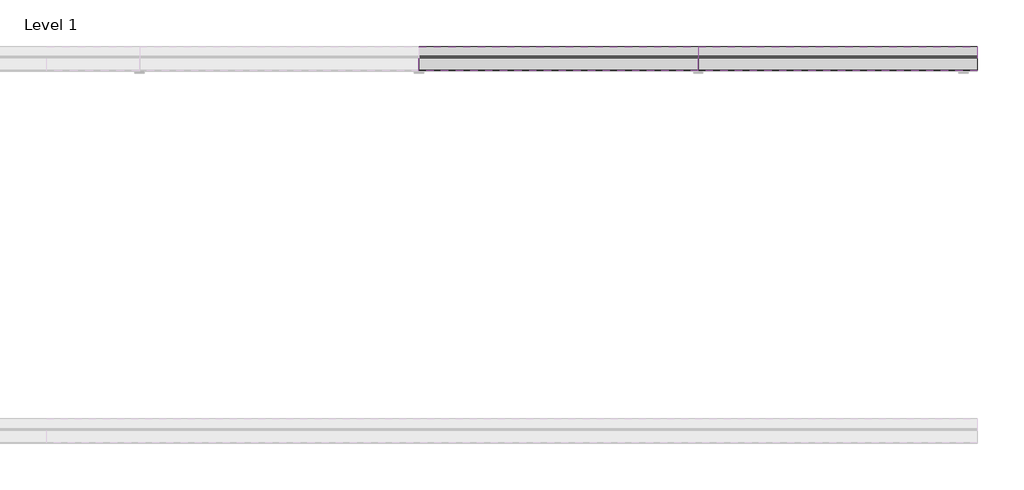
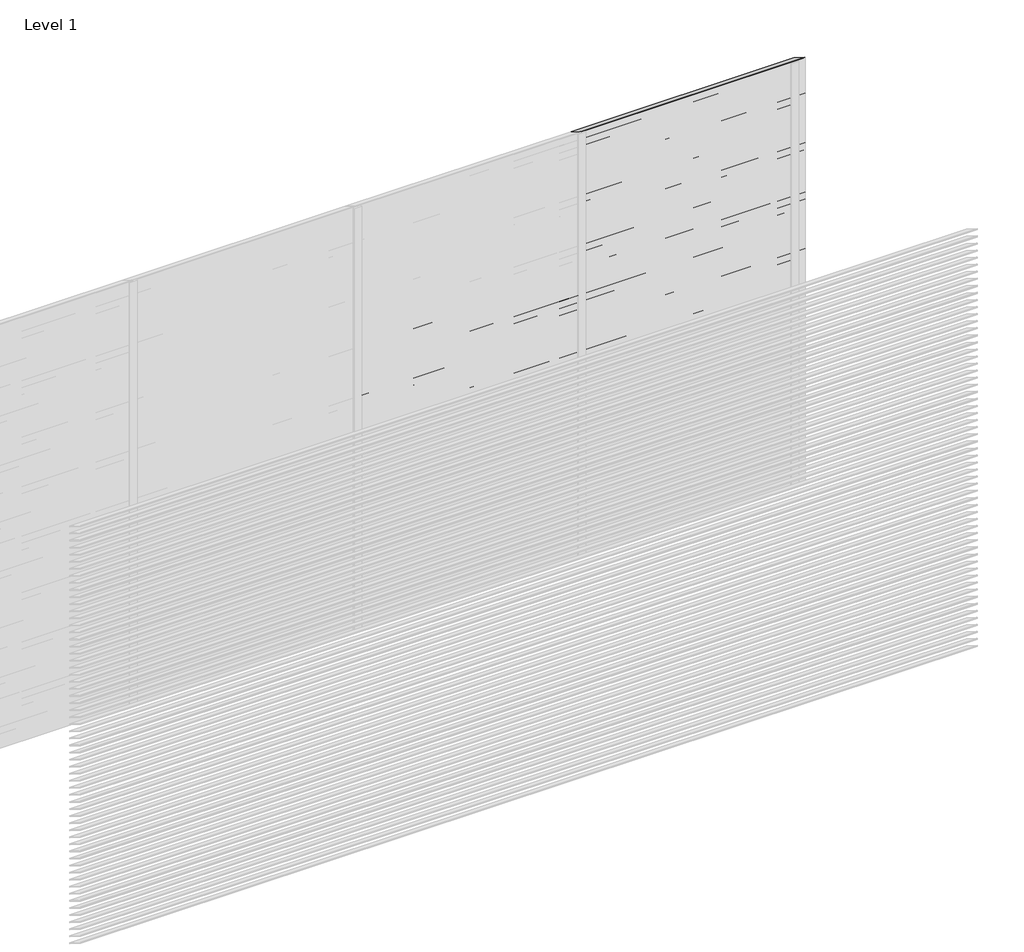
# One storey, part 13 of 13: 101 proxies.
"""IFC4 building model written with IfcOpenShell, lengths in millimetres."""

from ifc_helpers import new_model, si_unit, frame, origin, place, context, project, spatial, polyline, outline, extrude, element, save

model = new_model("IFC4")

# Units and contexts
model_context = context("Model", 3, world=origin())
ifc_project = project(units=[si_unit("LENGTHUNIT", "METRE", prefix="MILLI")], contexts=[model_context])

# Site, building, storey
site = spatial("IfcSite", under=ifc_project)
building = spatial("IfcBuilding", under=site)
storey = spatial("IfcBuildingStorey", under=building, Name="Level 1", Elevation=0.0)

# Proxies
placement = place(None, origin())
element("IfcBuildingElementProxy", 1, Name="Wall Sweeps", at=placement, inside=storey, context=model_context, shape_type="SweptSolid", body=[
    extrude(outline(polyline([(5.0, 2050.0), (5.0, 2048.0), (132.0, 1969.0), (132.0, 1963.0), (3.0, 2043.2440945), (3.0, 2050.0), (5.0, 2050.0)])), frame((3000.0, 0.0, 0.0), z_axis=(1.0, 0.0, 0.0), x_axis=(0.0, 1.0, 0.0)), (0.0, 0.0, 1.0), 1500.0),
])
element("IfcBuildingElementProxy", 2, Name="Wall Sweeps", at=placement, inside=storey, context=model_context, shape_type="SweptSolid", body=[
    extrude(outline(polyline([(5.0, 2000.0), (5.0, 1998.0), (132.0, 1919.0), (132.0, 1913.0), (3.0, 1993.2440945), (3.0, 2000.0), (5.0, 2000.0)])), frame((3000.0, 0.0, 0.0), z_axis=(1.0, 0.0, 0.0), x_axis=(0.0, 1.0, 0.0)), (0.0, 0.0, 1.0), 1500.0),
])
element("IfcBuildingElementProxy", 3, Name="Wall Sweeps", at=placement, inside=storey, context=model_context, shape_type="SweptSolid", body=[
    extrude(outline(polyline([(5.0, 1950.0), (5.0, 1948.0), (132.0, 1869.0), (132.0, 1863.0), (3.0, 1943.2440945), (3.0, 1950.0), (5.0, 1950.0)])), frame((3000.0, 0.0, 0.0), z_axis=(1.0, 0.0, 0.0), x_axis=(0.0, 1.0, 0.0)), (0.0, 0.0, 1.0), 1500.0),
])
element("IfcBuildingElementProxy", 4, Name="Wall Sweeps", at=placement, inside=storey, context=model_context, shape_type="SweptSolid", body=[
    extrude(outline(polyline([(5.0, 1900.0), (5.0, 1898.0), (132.0, 1819.0), (132.0, 1813.0), (3.0, 1893.2440945), (3.0, 1900.0), (5.0, 1900.0)])), frame((3000.0, 0.0, 0.0), z_axis=(1.0, 0.0, 0.0), x_axis=(0.0, 1.0, 0.0)), (0.0, 0.0, 1.0), 1500.0),
])
element("IfcBuildingElementProxy", 5, Name="Wall Sweeps", at=placement, inside=storey, context=model_context, shape_type="SweptSolid", body=[
    extrude(outline(polyline([(5.0, 1850.0), (5.0, 1848.0), (132.0, 1769.0), (132.0, 1763.0), (3.0, 1843.2440945), (3.0, 1850.0), (5.0, 1850.0)])), frame((3000.0, 0.0, 0.0), z_axis=(1.0, 0.0, 0.0), x_axis=(0.0, 1.0, 0.0)), (0.0, 0.0, 1.0), 1500.0),
])
element("IfcBuildingElementProxy", 6, Name="Wall Sweeps", at=placement, inside=storey, context=model_context, shape_type="SweptSolid", body=[
    extrude(outline(polyline([(5.0, 1800.0), (5.0, 1798.0), (132.0, 1719.0), (132.0, 1713.0), (3.0, 1793.2440945), (3.0, 1800.0), (5.0, 1800.0)])), frame((3000.0, 0.0, 0.0), z_axis=(1.0, 0.0, 0.0), x_axis=(0.0, 1.0, 0.0)), (0.0, 0.0, 1.0), 1500.0),
])
element("IfcBuildingElementProxy", 7, Name="Wall Sweeps", at=placement, inside=storey, context=model_context, shape_type="SweptSolid", body=[
    extrude(outline(polyline([(5.0, 1750.0), (5.0, 1748.0), (132.0, 1669.0), (132.0, 1663.0), (3.0, 1743.2440945), (3.0, 1750.0), (5.0, 1750.0)])), frame((3000.0, 0.0, 0.0), z_axis=(1.0, 0.0, 0.0), x_axis=(0.0, 1.0, 0.0)), (0.0, 0.0, 1.0), 1500.0),
])
element("IfcBuildingElementProxy", 8, Name="Wall Sweeps", at=placement, inside=storey, context=model_context, shape_type="SweptSolid", body=[
    extrude(outline(polyline([(5.0, 1700.0), (5.0, 1698.0), (132.0, 1619.0), (132.0, 1613.0), (3.0, 1693.2440945), (3.0, 1700.0), (5.0, 1700.0)])), frame((3000.0, 0.0, 0.0), z_axis=(1.0, 0.0, 0.0), x_axis=(0.0, 1.0, 0.0)), (0.0, 0.0, 1.0), 1500.0),
])
element("IfcBuildingElementProxy", 9, Name="Wall Sweeps", at=placement, inside=storey, context=model_context, shape_type="SweptSolid", body=[
    extrude(outline(polyline([(5.0, 1650.0), (5.0, 1648.0), (132.0, 1569.0), (132.0, 1563.0), (3.0, 1643.2440945), (3.0, 1650.0), (5.0, 1650.0)])), frame((3000.0, 0.0, 0.0), z_axis=(1.0, 0.0, 0.0), x_axis=(0.0, 1.0, 0.0)), (0.0, 0.0, 1.0), 1500.0),
])
element("IfcBuildingElementProxy", 10, Name="Wall Sweeps", at=placement, inside=storey, context=model_context, shape_type="SweptSolid", body=[
    extrude(outline(polyline([(5.0, 1600.0), (5.0, 1598.0), (132.0, 1519.0), (132.0, 1513.0), (3.0, 1593.2440945), (3.0, 1600.0), (5.0, 1600.0)])), frame((3000.0, 0.0, 0.0), z_axis=(1.0, 0.0, 0.0), x_axis=(0.0, 1.0, 0.0)), (0.0, 0.0, 1.0), 1500.0),
])
element("IfcBuildingElementProxy", 11, Name="Wall Sweeps", at=placement, inside=storey, context=model_context, shape_type="SweptSolid", body=[
    extrude(outline(polyline([(5.0, 1550.0), (5.0, 1548.0), (132.0, 1469.0), (132.0, 1463.0), (3.0, 1543.2440945), (3.0, 1550.0), (5.0, 1550.0)])), frame((3000.0, 0.0, 0.0), z_axis=(1.0, 0.0, 0.0), x_axis=(0.0, 1.0, 0.0)), (0.0, 0.0, 1.0), 1500.0),
])
element("IfcBuildingElementProxy", 12, Name="Wall Sweeps", at=placement, inside=storey, context=model_context, shape_type="SweptSolid", body=[
    extrude(outline(polyline([(5.0, 1500.0), (5.0, 1498.0), (132.0, 1419.0), (132.0, 1413.0), (3.0, 1493.2440945), (3.0, 1500.0), (5.0, 1500.0)])), frame((3000.0, 0.0, 0.0), z_axis=(1.0, 0.0, 0.0), x_axis=(0.0, 1.0, 0.0)), (0.0, 0.0, 1.0), 1500.0),
])
element("IfcBuildingElementProxy", 13, Name="Wall Sweeps", at=placement, inside=storey, context=model_context, shape_type="SweptSolid", body=[
    extrude(outline(polyline([(5.0, 1450.0), (5.0, 1448.0), (132.0, 1369.0), (132.0, 1363.0), (3.0, 1443.2440945), (3.0, 1450.0), (5.0, 1450.0)])), frame((3000.0, 0.0, 0.0), z_axis=(1.0, 0.0, 0.0), x_axis=(0.0, 1.0, 0.0)), (0.0, 0.0, 1.0), 1500.0),
])
element("IfcBuildingElementProxy", 14, Name="Wall Sweeps", at=placement, inside=storey, context=model_context, shape_type="SweptSolid", body=[
    extrude(outline(polyline([(5.0, 1400.0), (5.0, 1398.0), (132.0, 1319.0), (132.0, 1313.0), (3.0, 1393.2440945), (3.0, 1400.0), (5.0, 1400.0)])), frame((3000.0, 0.0, 0.0), z_axis=(1.0, 0.0, 0.0), x_axis=(0.0, 1.0, 0.0)), (0.0, 0.0, 1.0), 1500.0),
])
element("IfcBuildingElementProxy", 15, Name="Wall Sweeps", at=placement, inside=storey, context=model_context, shape_type="SweptSolid", body=[
    extrude(outline(polyline([(5.0, 1350.0), (5.0, 1348.0), (132.0, 1269.0), (132.0, 1263.0), (3.0, 1343.2440945), (3.0, 1350.0), (5.0, 1350.0)])), frame((3000.0, 0.0, 0.0), z_axis=(1.0, 0.0, 0.0), x_axis=(0.0, 1.0, 0.0)), (0.0, 0.0, 1.0), 1500.0),
])
element("IfcBuildingElementProxy", 16, Name="Wall Sweeps", at=placement, inside=storey, context=model_context, shape_type="SweptSolid", body=[
    extrude(outline(polyline([(5.0, 1300.0), (5.0, 1298.0), (132.0, 1219.0), (132.0, 1213.0), (3.0, 1293.2440945), (3.0, 1300.0), (5.0, 1300.0)])), frame((3000.0, 0.0, 0.0), z_axis=(1.0, 0.0, 0.0), x_axis=(0.0, 1.0, 0.0)), (0.0, 0.0, 1.0), 1500.0),
])
element("IfcBuildingElementProxy", 17, Name="Wall Sweeps", at=placement, inside=storey, context=model_context, shape_type="SweptSolid", body=[
    extrude(outline(polyline([(5.0, 1250.0), (5.0, 1248.0), (132.0, 1169.0), (132.0, 1163.0), (3.0, 1243.2440945), (3.0, 1250.0), (5.0, 1250.0)])), frame((3000.0, 0.0, 0.0), z_axis=(1.0, 0.0, 0.0), x_axis=(0.0, 1.0, 0.0)), (0.0, 0.0, 1.0), 1500.0),
])
element("IfcBuildingElementProxy", 18, Name="Wall Sweeps", at=placement, inside=storey, context=model_context, shape_type="SweptSolid", body=[
    extrude(outline(polyline([(5.0, 1200.0), (5.0, 1198.0), (132.0, 1119.0), (132.0, 1113.0), (3.0, 1193.2440945), (3.0, 1200.0), (5.0, 1200.0)])), frame((3000.0, 0.0, 0.0), z_axis=(1.0, 0.0, 0.0), x_axis=(0.0, 1.0, 0.0)), (0.0, 0.0, 1.0), 1500.0),
])
element("IfcBuildingElementProxy", 19, Name="Wall Sweeps", at=placement, inside=storey, context=model_context, shape_type="SweptSolid", body=[
    extrude(outline(polyline([(5.0, 1150.0), (5.0, 1148.0), (132.0, 1069.0), (132.0, 1063.0), (3.0, 1143.2440945), (3.0, 1150.0), (5.0, 1150.0)])), frame((3000.0, 0.0, 0.0), z_axis=(1.0, 0.0, 0.0), x_axis=(0.0, 1.0, 0.0)), (0.0, 0.0, 1.0), 1500.0),
])
element("IfcBuildingElementProxy", 20, Name="Wall Sweeps", at=placement, inside=storey, context=model_context, shape_type="SweptSolid", body=[
    extrude(outline(polyline([(5.0, 1100.0), (5.0, 1098.0), (132.0, 1019.0), (132.0, 1013.0), (3.0, 1093.2440945), (3.0, 1100.0), (5.0, 1100.0)])), frame((3000.0, 0.0, 0.0), z_axis=(1.0, 0.0, 0.0), x_axis=(0.0, 1.0, 0.0)), (0.0, 0.0, 1.0), 1500.0),
])
element("IfcBuildingElementProxy", 21, Name="Wall Sweeps", at=placement, inside=storey, context=model_context, shape_type="SweptSolid", body=[
    extrude(outline(polyline([(5.0, 1050.0), (5.0, 1048.0), (132.0, 969.0), (132.0, 963.0), (3.0, 1043.2440945), (3.0, 1050.0), (5.0, 1050.0)])), frame((3000.0, 0.0, 0.0), z_axis=(1.0, 0.0, 0.0), x_axis=(0.0, 1.0, 0.0)), (0.0, 0.0, 1.0), 1500.0),
])
element("IfcBuildingElementProxy", 22, Name="Wall Sweeps", at=placement, inside=storey, context=model_context, shape_type="SweptSolid", body=[
    extrude(outline(polyline([(5.0, 1000.0), (5.0, 998.0), (132.0, 919.0), (132.0, 913.0), (3.0, 993.2440945), (3.0, 1000.0), (5.0, 1000.0)])), frame((3000.0, 0.0, 0.0), z_axis=(1.0, 0.0, 0.0), x_axis=(0.0, 1.0, 0.0)), (0.0, 0.0, 1.0), 1500.0),
])
element("IfcBuildingElementProxy", 23, Name="Wall Sweeps", at=placement, inside=storey, context=model_context, shape_type="SweptSolid", body=[
    extrude(outline(polyline([(5.0, 950.0), (5.0, 948.0), (132.0, 869.0), (132.0, 863.0), (3.0, 943.2440945), (3.0, 950.0), (5.0, 950.0)])), frame((3000.0, 0.0, 0.0), z_axis=(1.0, 0.0, 0.0), x_axis=(0.0, 1.0, 0.0)), (0.0, 0.0, 1.0), 1500.0),
])
element("IfcBuildingElementProxy", 24, Name="Wall Sweeps", at=placement, inside=storey, context=model_context, shape_type="SweptSolid", body=[
    extrude(outline(polyline([(5.0, 900.0), (5.0, 898.0), (132.0, 819.0), (132.0, 813.0), (3.0, 893.2440945), (3.0, 900.0), (5.0, 900.0)])), frame((3000.0, 0.0, 0.0), z_axis=(1.0, 0.0, 0.0), x_axis=(0.0, 1.0, 0.0)), (0.0, 0.0, 1.0), 1500.0),
])
element("IfcBuildingElementProxy", 25, Name="Wall Sweeps", at=placement, inside=storey, context=model_context, shape_type="SweptSolid", body=[
    extrude(outline(polyline([(5.0, 850.0), (5.0, 848.0), (132.0, 769.0), (132.0, 763.0), (3.0, 843.2440945), (3.0, 850.0), (5.0, 850.0)])), frame((3000.0, 0.0, 0.0), z_axis=(1.0, 0.0, 0.0), x_axis=(0.0, 1.0, 0.0)), (0.0, 0.0, 1.0), 1500.0),
])
element("IfcBuildingElementProxy", 26, Name="Wall Sweeps", at=placement, inside=storey, context=model_context, shape_type="SweptSolid", body=[
    extrude(outline(polyline([(5.0, 800.0), (5.0, 798.0), (132.0, 719.0), (132.0, 713.0), (3.0, 793.2440945), (3.0, 800.0), (5.0, 800.0)])), frame((3000.0, 0.0, 0.0), z_axis=(1.0, 0.0, 0.0), x_axis=(0.0, 1.0, 0.0)), (0.0, 0.0, 1.0), 1500.0),
])
element("IfcBuildingElementProxy", 27, Name="Wall Sweeps", at=placement, inside=storey, context=model_context, shape_type="SweptSolid", body=[
    extrude(outline(polyline([(5.0, 750.0), (5.0, 748.0), (132.0, 669.0), (132.0, 663.0), (3.0, 743.2440945), (3.0, 750.0), (5.0, 750.0)])), frame((3000.0, 0.0, 0.0), z_axis=(1.0, 0.0, 0.0), x_axis=(0.0, 1.0, 0.0)), (0.0, 0.0, 1.0), 1500.0),
])
element("IfcBuildingElementProxy", 28, Name="Wall Sweeps", at=placement, inside=storey, context=model_context, shape_type="SweptSolid", body=[
    extrude(outline(polyline([(5.0, 700.0), (5.0, 698.0), (132.0, 619.0), (132.0, 613.0), (3.0, 693.2440945), (3.0, 700.0), (5.0, 700.0)])), frame((3000.0, 0.0, 0.0), z_axis=(1.0, 0.0, 0.0), x_axis=(0.0, 1.0, 0.0)), (0.0, 0.0, 1.0), 1500.0),
])
element("IfcBuildingElementProxy", 29, Name="Wall Sweeps", at=placement, inside=storey, context=model_context, shape_type="SweptSolid", body=[
    extrude(outline(polyline([(5.0, 650.0), (5.0, 648.0), (132.0, 569.0), (132.0, 563.0), (3.0, 643.2440945), (3.0, 650.0), (5.0, 650.0)])), frame((3000.0, 0.0, 0.0), z_axis=(1.0, 0.0, 0.0), x_axis=(0.0, 1.0, 0.0)), (0.0, 0.0, 1.0), 1500.0),
])
element("IfcBuildingElementProxy", 30, Name="Wall Sweeps", at=placement, inside=storey, context=model_context, shape_type="SweptSolid", body=[
    extrude(outline(polyline([(5.0, 600.0), (5.0, 598.0), (132.0, 519.0), (132.0, 513.0), (3.0, 593.2440945), (3.0, 600.0), (5.0, 600.0)])), frame((3000.0, 0.0, 0.0), z_axis=(1.0, 0.0, 0.0), x_axis=(0.0, 1.0, 0.0)), (0.0, 0.0, 1.0), 1500.0),
])
element("IfcBuildingElementProxy", 31, Name="Wall Sweeps", at=placement, inside=storey, context=model_context, shape_type="SweptSolid", body=[
    extrude(outline(polyline([(5.0, 550.0), (5.0, 548.0), (132.0, 469.0), (132.0, 463.0), (3.0, 543.2440945), (3.0, 550.0), (5.0, 550.0)])), frame((3000.0, 0.0, 0.0), z_axis=(1.0, 0.0, 0.0), x_axis=(0.0, 1.0, 0.0)), (0.0, 0.0, 1.0), 1500.0),
])
element("IfcBuildingElementProxy", 32, Name="Wall Sweeps", at=placement, inside=storey, context=model_context, shape_type="SweptSolid", body=[
    extrude(outline(polyline([(5.0, 500.0), (5.0, 498.0), (132.0, 419.0), (132.0, 413.0), (3.0, 493.2440945), (3.0, 500.0), (5.0, 500.0)])), frame((3000.0, 0.0, 0.0), z_axis=(1.0, 0.0, 0.0), x_axis=(0.0, 1.0, 0.0)), (0.0, 0.0, 1.0), 1500.0),
])
element("IfcBuildingElementProxy", 33, Name="Wall Sweeps", at=placement, inside=storey, context=model_context, shape_type="SweptSolid", body=[
    extrude(outline(polyline([(5.0, 450.0), (5.0, 448.0), (132.0, 369.0), (132.0, 363.0), (3.0, 443.2440945), (3.0, 450.0), (5.0, 450.0)])), frame((3000.0, 0.0, 0.0), z_axis=(1.0, 0.0, 0.0), x_axis=(0.0, 1.0, 0.0)), (0.0, 0.0, 1.0), 1500.0),
])
element("IfcBuildingElementProxy", 34, Name="Wall Sweeps", at=placement, inside=storey, context=model_context, shape_type="SweptSolid", body=[
    extrude(outline(polyline([(5.0, 400.0), (5.0, 398.0), (132.0, 319.0), (132.0, 313.0), (3.0, 393.2440945), (3.0, 400.0), (5.0, 400.0)])), frame((3000.0, 0.0, 0.0), z_axis=(1.0, 0.0, 0.0), x_axis=(0.0, 1.0, 0.0)), (0.0, 0.0, 1.0), 1500.0),
])
element("IfcBuildingElementProxy", 35, Name="Wall Sweeps", at=placement, inside=storey, context=model_context, shape_type="SweptSolid", body=[
    extrude(outline(polyline([(5.0, 350.0), (5.0, 348.0), (132.0, 269.0), (132.0, 263.0), (3.0, 343.2440945), (3.0, 350.0), (5.0, 350.0)])), frame((3000.0, 0.0, 0.0), z_axis=(1.0, 0.0, 0.0), x_axis=(0.0, 1.0, 0.0)), (0.0, 0.0, 1.0), 1500.0),
])
element("IfcBuildingElementProxy", 36, Name="Wall Sweeps", at=placement, inside=storey, context=model_context, shape_type="SweptSolid", body=[
    extrude(outline(polyline([(5.0, 300.0), (5.0, 298.0), (132.0, 219.0), (132.0, 213.0), (3.0, 293.2440945), (3.0, 300.0), (5.0, 300.0)])), frame((3000.0, 0.0, 0.0), z_axis=(1.0, 0.0, 0.0), x_axis=(0.0, 1.0, 0.0)), (0.0, 0.0, 1.0), 1500.0),
])
element("IfcBuildingElementProxy", 37, Name="Wall Sweeps", at=placement, inside=storey, context=model_context, shape_type="SweptSolid", body=[
    extrude(outline(polyline([(5.0, 250.0), (5.0, 248.0), (132.0, 169.0), (132.0, 163.0), (3.0, 243.2440945), (3.0, 250.0), (5.0, 250.0)])), frame((3000.0, 0.0, 0.0), z_axis=(1.0, 0.0, 0.0), x_axis=(0.0, 1.0, 0.0)), (0.0, 0.0, 1.0), 1500.0),
])
element("IfcBuildingElementProxy", 38, Name="Wall Sweeps", at=placement, inside=storey, context=model_context, shape_type="SweptSolid", body=[
    extrude(outline(polyline([(5.0, 200.0), (5.0, 198.0), (132.0, 119.0), (132.0, 113.0), (3.0, 193.2440945), (3.0, 200.0), (5.0, 200.0)])), frame((3000.0, 0.0, 0.0), z_axis=(1.0, 0.0, 0.0), x_axis=(0.0, 1.0, 0.0)), (0.0, 0.0, 1.0), 1500.0),
])
element("IfcBuildingElementProxy", 39, Name="Wall Sweeps", at=placement, inside=storey, context=model_context, shape_type="SweptSolid", body=[
    extrude(outline(polyline([(5.0, 150.0), (5.0, 148.0), (132.0, 69.0), (132.0, 63.0), (3.0, 143.2440945), (3.0, 150.0), (5.0, 150.0)])), frame((3000.0, 0.0, 0.0), z_axis=(1.0, 0.0, 0.0), x_axis=(0.0, 1.0, 0.0)), (0.0, 0.0, 1.0), 1500.0),
])
element("IfcBuildingElementProxy", 40, Name="Wall Sweeps", at=placement, inside=storey, context=model_context, shape_type="SweptSolid", body=[
    extrude(outline(polyline([(5.0, 100.0), (5.0, 98.0), (132.0, 19.0), (132.0, 13.0), (3.0, 93.2440945), (3.0, 100.0), (5.0, 100.0)])), frame((3000.0, 0.0, 0.0), z_axis=(1.0, 0.0, 0.0), x_axis=(0.0, 1.0, 0.0)), (0.0, 0.0, 1.0), 1500.0),
])
element("IfcBuildingElementProxy", 41, Name="Wall Sweeps", at=placement, inside=storey, context=model_context, shape_type="SweptSolid", body=[
    extrude(outline(polyline([(5.0, 50.0), (5.0, 48.0), (132.0, -31.0), (132.0, -37.0), (3.0, 43.2440945), (3.0, 50.0), (5.0, 50.0)])), frame((3000.0, 0.0, 0.0), z_axis=(1.0, 0.0, 0.0), x_axis=(0.0, 1.0, 0.0)), (0.0, 0.0, 1.0), 1500.0),
])
element("IfcBuildingElementProxy", 42, Name="Wall Sweeps", at=placement, inside=storey, context=model_context, shape_type="SweptSolid", body=[
    extrude(outline(polyline([(5.0, 3000.0), (5.0, 2998.0), (132.0, 2919.0), (132.0, 2913.0), (3.0, 2993.2440945), (3.0, 3000.0), (5.0, 3000.0)])), frame((4500.0, 0.0, 0.0), z_axis=(1.0, 0.0, 0.0), x_axis=(0.0, 1.0, 0.0)), (0.0, 0.0, 1.0), 1500.0),
])
element("IfcBuildingElementProxy", 43, Name="Wall Sweeps", at=placement, inside=storey, context=model_context, shape_type="SweptSolid", body=[
    extrude(outline(polyline([(5.0, 2950.0), (5.0, 2948.0), (132.0, 2869.0), (132.0, 2863.0), (3.0, 2943.2440945), (3.0, 2950.0), (5.0, 2950.0)])), frame((4500.0, 0.0, 0.0), z_axis=(1.0, 0.0, 0.0), x_axis=(0.0, 1.0, 0.0)), (0.0, 0.0, 1.0), 1500.0),
])
element("IfcBuildingElementProxy", 44, Name="Wall Sweeps", at=placement, inside=storey, context=model_context, shape_type="SweptSolid", body=[
    extrude(outline(polyline([(5.0, 2900.0), (5.0, 2898.0), (132.0, 2819.0), (132.0, 2813.0), (3.0, 2893.2440945), (3.0, 2900.0), (5.0, 2900.0)])), frame((4500.0, 0.0, 0.0), z_axis=(1.0, 0.0, 0.0), x_axis=(0.0, 1.0, 0.0)), (0.0, 0.0, 1.0), 1500.0),
])
element("IfcBuildingElementProxy", 45, Name="Wall Sweeps", at=placement, inside=storey, context=model_context, shape_type="SweptSolid", body=[
    extrude(outline(polyline([(5.0, 2850.0), (5.0, 2848.0), (132.0, 2769.0), (132.0, 2763.0), (3.0, 2843.2440945), (3.0, 2850.0), (5.0, 2850.0)])), frame((4500.0, 0.0, 0.0), z_axis=(1.0, 0.0, 0.0), x_axis=(0.0, 1.0, 0.0)), (0.0, 0.0, 1.0), 1500.0),
])
element("IfcBuildingElementProxy", 46, Name="Wall Sweeps", at=placement, inside=storey, context=model_context, shape_type="SweptSolid", body=[
    extrude(outline(polyline([(5.0, 2800.0), (5.0, 2798.0), (132.0, 2719.0), (132.0, 2713.0), (3.0, 2793.2440945), (3.0, 2800.0), (5.0, 2800.0)])), frame((4500.0, 0.0, 0.0), z_axis=(1.0, 0.0, 0.0), x_axis=(0.0, 1.0, 0.0)), (0.0, 0.0, 1.0), 1500.0),
])
element("IfcBuildingElementProxy", 47, Name="Wall Sweeps", at=placement, inside=storey, context=model_context, shape_type="SweptSolid", body=[
    extrude(outline(polyline([(5.0, 2750.0), (5.0, 2748.0), (132.0, 2669.0), (132.0, 2663.0), (3.0, 2743.2440945), (3.0, 2750.0), (5.0, 2750.0)])), frame((4500.0, 0.0, 0.0), z_axis=(1.0, 0.0, 0.0), x_axis=(0.0, 1.0, 0.0)), (0.0, 0.0, 1.0), 1500.0),
])
element("IfcBuildingElementProxy", 48, Name="Wall Sweeps", at=placement, inside=storey, context=model_context, shape_type="SweptSolid", body=[
    extrude(outline(polyline([(5.0, 2700.0), (5.0, 2698.0), (132.0, 2619.0), (132.0, 2613.0), (3.0, 2693.2440945), (3.0, 2700.0), (5.0, 2700.0)])), frame((4500.0, 0.0, 0.0), z_axis=(1.0, 0.0, 0.0), x_axis=(0.0, 1.0, 0.0)), (0.0, 0.0, 1.0), 1500.0),
])
element("IfcBuildingElementProxy", 49, Name="Wall Sweeps", at=placement, inside=storey, context=model_context, shape_type="SweptSolid", body=[
    extrude(outline(polyline([(5.0, 2650.0), (5.0, 2648.0), (132.0, 2569.0), (132.0, 2563.0), (3.0, 2643.2440945), (3.0, 2650.0), (5.0, 2650.0)])), frame((4500.0, 0.0, 0.0), z_axis=(1.0, 0.0, 0.0), x_axis=(0.0, 1.0, 0.0)), (0.0, 0.0, 1.0), 1500.0),
])
element("IfcBuildingElementProxy", 50, Name="Wall Sweeps", at=placement, inside=storey, context=model_context, shape_type="SweptSolid", body=[
    extrude(outline(polyline([(5.0, 2600.0), (5.0, 2598.0), (132.0, 2519.0), (132.0, 2513.0), (3.0, 2593.2440945), (3.0, 2600.0), (5.0, 2600.0)])), frame((4500.0, 0.0, 0.0), z_axis=(1.0, 0.0, 0.0), x_axis=(0.0, 1.0, 0.0)), (0.0, 0.0, 1.0), 1500.0),
])
element("IfcBuildingElementProxy", 51, Name="Wall Sweeps", at=placement, inside=storey, context=model_context, shape_type="SweptSolid", body=[
    extrude(outline(polyline([(5.0, 2550.0), (5.0, 2548.0), (132.0, 2469.0), (132.0, 2463.0), (3.0, 2543.2440945), (3.0, 2550.0), (5.0, 2550.0)])), frame((4500.0, 0.0, 0.0), z_axis=(1.0, 0.0, 0.0), x_axis=(0.0, 1.0, 0.0)), (0.0, 0.0, 1.0), 1500.0),
])
element("IfcBuildingElementProxy", 52, Name="Wall Sweeps", at=placement, inside=storey, context=model_context, shape_type="SweptSolid", body=[
    extrude(outline(polyline([(5.0, 2500.0), (5.0, 2498.0), (132.0, 2419.0), (132.0, 2413.0), (3.0, 2493.2440945), (3.0, 2500.0), (5.0, 2500.0)])), frame((4500.0, 0.0, 0.0), z_axis=(1.0, 0.0, 0.0), x_axis=(0.0, 1.0, 0.0)), (0.0, 0.0, 1.0), 1500.0),
])
element("IfcBuildingElementProxy", 53, Name="Wall Sweeps", at=placement, inside=storey, context=model_context, shape_type="SweptSolid", body=[
    extrude(outline(polyline([(5.0, 2450.0), (5.0, 2448.0), (132.0, 2369.0), (132.0, 2363.0), (3.0, 2443.2440945), (3.0, 2450.0), (5.0, 2450.0)])), frame((4500.0, 0.0, 0.0), z_axis=(1.0, 0.0, 0.0), x_axis=(0.0, 1.0, 0.0)), (0.0, 0.0, 1.0), 1500.0),
])
element("IfcBuildingElementProxy", 54, Name="Wall Sweeps", at=placement, inside=storey, context=model_context, shape_type="SweptSolid", body=[
    extrude(outline(polyline([(5.0, 2400.0), (5.0, 2398.0), (132.0, 2319.0), (132.0, 2313.0), (3.0, 2393.2440945), (3.0, 2400.0), (5.0, 2400.0)])), frame((4500.0, 0.0, 0.0), z_axis=(1.0, 0.0, 0.0), x_axis=(0.0, 1.0, 0.0)), (0.0, 0.0, 1.0), 1500.0),
])
element("IfcBuildingElementProxy", 55, Name="Wall Sweeps", at=placement, inside=storey, context=model_context, shape_type="SweptSolid", body=[
    extrude(outline(polyline([(5.0, 2350.0), (5.0, 2348.0), (132.0, 2269.0), (132.0, 2263.0), (3.0, 2343.2440945), (3.0, 2350.0), (5.0, 2350.0)])), frame((4500.0, 0.0, 0.0), z_axis=(1.0, 0.0, 0.0), x_axis=(0.0, 1.0, 0.0)), (0.0, 0.0, 1.0), 1500.0),
])
element("IfcBuildingElementProxy", 56, Name="Wall Sweeps", at=placement, inside=storey, context=model_context, shape_type="SweptSolid", body=[
    extrude(outline(polyline([(5.0, 2300.0), (5.0, 2298.0), (132.0, 2219.0), (132.0, 2213.0), (3.0, 2293.2440945), (3.0, 2300.0), (5.0, 2300.0)])), frame((4500.0, 0.0, 0.0), z_axis=(1.0, 0.0, 0.0), x_axis=(0.0, 1.0, 0.0)), (0.0, 0.0, 1.0), 1500.0),
])
element("IfcBuildingElementProxy", 57, Name="Wall Sweeps", at=placement, inside=storey, context=model_context, shape_type="SweptSolid", body=[
    extrude(outline(polyline([(5.0, 2250.0), (5.0, 2248.0), (132.0, 2169.0), (132.0, 2163.0), (3.0, 2243.2440945), (3.0, 2250.0), (5.0, 2250.0)])), frame((4500.0, 0.0, 0.0), z_axis=(1.0, 0.0, 0.0), x_axis=(0.0, 1.0, 0.0)), (0.0, 0.0, 1.0), 1500.0),
])
element("IfcBuildingElementProxy", 58, Name="Wall Sweeps", at=placement, inside=storey, context=model_context, shape_type="SweptSolid", body=[
    extrude(outline(polyline([(5.0, 2200.0), (5.0, 2198.0), (132.0, 2119.0), (132.0, 2113.0), (3.0, 2193.2440945), (3.0, 2200.0), (5.0, 2200.0)])), frame((4500.0, 0.0, 0.0), z_axis=(1.0, 0.0, 0.0), x_axis=(0.0, 1.0, 0.0)), (0.0, 0.0, 1.0), 1500.0),
])
element("IfcBuildingElementProxy", 59, Name="Wall Sweeps", at=placement, inside=storey, context=model_context, shape_type="SweptSolid", body=[
    extrude(outline(polyline([(5.0, 2150.0), (5.0, 2148.0), (132.0, 2069.0), (132.0, 2063.0), (3.0, 2143.2440945), (3.0, 2150.0), (5.0, 2150.0)])), frame((4500.0, 0.0, 0.0), z_axis=(1.0, 0.0, 0.0), x_axis=(0.0, 1.0, 0.0)), (0.0, 0.0, 1.0), 1500.0),
])
element("IfcBuildingElementProxy", 60, Name="Wall Sweeps", at=placement, inside=storey, context=model_context, shape_type="SweptSolid", body=[
    extrude(outline(polyline([(5.0, 2100.0), (5.0, 2098.0), (132.0, 2019.0), (132.0, 2013.0), (3.0, 2093.2440945), (3.0, 2100.0), (5.0, 2100.0)])), frame((4500.0, 0.0, 0.0), z_axis=(1.0, 0.0, 0.0), x_axis=(0.0, 1.0, 0.0)), (0.0, 0.0, 1.0), 1500.0),
])
element("IfcBuildingElementProxy", 61, Name="Wall Sweeps", at=placement, inside=storey, context=model_context, shape_type="SweptSolid", body=[
    extrude(outline(polyline([(5.0, 2050.0), (5.0, 2048.0), (132.0, 1969.0), (132.0, 1963.0), (3.0, 2043.2440945), (3.0, 2050.0), (5.0, 2050.0)])), frame((4500.0, 0.0, 0.0), z_axis=(1.0, 0.0, 0.0), x_axis=(0.0, 1.0, 0.0)), (0.0, 0.0, 1.0), 1500.0),
])
element("IfcBuildingElementProxy", 62, Name="Wall Sweeps", at=placement, inside=storey, context=model_context, shape_type="SweptSolid", body=[
    extrude(outline(polyline([(5.0, 2000.0), (5.0, 1998.0), (132.0, 1919.0), (132.0, 1913.0), (3.0, 1993.2440945), (3.0, 2000.0), (5.0, 2000.0)])), frame((4500.0, 0.0, 0.0), z_axis=(1.0, 0.0, 0.0), x_axis=(0.0, 1.0, 0.0)), (0.0, 0.0, 1.0), 1500.0),
])
element("IfcBuildingElementProxy", 63, Name="Wall Sweeps", at=placement, inside=storey, context=model_context, shape_type="SweptSolid", body=[
    extrude(outline(polyline([(5.0, 1950.0), (5.0, 1948.0), (132.0, 1869.0), (132.0, 1863.0), (3.0, 1943.2440945), (3.0, 1950.0), (5.0, 1950.0)])), frame((4500.0, 0.0, 0.0), z_axis=(1.0, 0.0, 0.0), x_axis=(0.0, 1.0, 0.0)), (0.0, 0.0, 1.0), 1500.0),
])
element("IfcBuildingElementProxy", 64, Name="Wall Sweeps", at=placement, inside=storey, context=model_context, shape_type="SweptSolid", body=[
    extrude(outline(polyline([(5.0, 1900.0), (5.0, 1898.0), (132.0, 1819.0), (132.0, 1813.0), (3.0, 1893.2440945), (3.0, 1900.0), (5.0, 1900.0)])), frame((4500.0, 0.0, 0.0), z_axis=(1.0, 0.0, 0.0), x_axis=(0.0, 1.0, 0.0)), (0.0, 0.0, 1.0), 1500.0),
])
element("IfcBuildingElementProxy", 65, Name="Wall Sweeps", at=placement, inside=storey, context=model_context, shape_type="SweptSolid", body=[
    extrude(outline(polyline([(5.0, 1850.0), (5.0, 1848.0), (132.0, 1769.0), (132.0, 1763.0), (3.0, 1843.2440945), (3.0, 1850.0), (5.0, 1850.0)])), frame((4500.0, 0.0, 0.0), z_axis=(1.0, 0.0, 0.0), x_axis=(0.0, 1.0, 0.0)), (0.0, 0.0, 1.0), 1500.0),
])
element("IfcBuildingElementProxy", 66, Name="Wall Sweeps", at=placement, inside=storey, context=model_context, shape_type="SweptSolid", body=[
    extrude(outline(polyline([(5.0, 1800.0), (5.0, 1798.0), (132.0, 1719.0), (132.0, 1713.0), (3.0, 1793.2440945), (3.0, 1800.0), (5.0, 1800.0)])), frame((4500.0, 0.0, 0.0), z_axis=(1.0, 0.0, 0.0), x_axis=(0.0, 1.0, 0.0)), (0.0, 0.0, 1.0), 1500.0),
])
element("IfcBuildingElementProxy", 67, Name="Wall Sweeps", at=placement, inside=storey, context=model_context, shape_type="SweptSolid", body=[
    extrude(outline(polyline([(5.0, 1750.0), (5.0, 1748.0), (132.0, 1669.0), (132.0, 1663.0), (3.0, 1743.2440945), (3.0, 1750.0), (5.0, 1750.0)])), frame((4500.0, 0.0, 0.0), z_axis=(1.0, 0.0, 0.0), x_axis=(0.0, 1.0, 0.0)), (0.0, 0.0, 1.0), 1500.0),
])
element("IfcBuildingElementProxy", 68, Name="Wall Sweeps", at=placement, inside=storey, context=model_context, shape_type="SweptSolid", body=[
    extrude(outline(polyline([(5.0, 1700.0), (5.0, 1698.0), (132.0, 1619.0), (132.0, 1613.0), (3.0, 1693.2440945), (3.0, 1700.0), (5.0, 1700.0)])), frame((4500.0, 0.0, 0.0), z_axis=(1.0, 0.0, 0.0), x_axis=(0.0, 1.0, 0.0)), (0.0, 0.0, 1.0), 1500.0),
])
element("IfcBuildingElementProxy", 69, Name="Wall Sweeps", at=placement, inside=storey, context=model_context, shape_type="SweptSolid", body=[
    extrude(outline(polyline([(5.0, 1650.0), (5.0, 1648.0), (132.0, 1569.0), (132.0, 1563.0), (3.0, 1643.2440945), (3.0, 1650.0), (5.0, 1650.0)])), frame((4500.0, 0.0, 0.0), z_axis=(1.0, 0.0, 0.0), x_axis=(0.0, 1.0, 0.0)), (0.0, 0.0, 1.0), 1500.0),
])
element("IfcBuildingElementProxy", 70, Name="Wall Sweeps", at=placement, inside=storey, context=model_context, shape_type="SweptSolid", body=[
    extrude(outline(polyline([(5.0, 1600.0), (5.0, 1598.0), (132.0, 1519.0), (132.0, 1513.0), (3.0, 1593.2440945), (3.0, 1600.0), (5.0, 1600.0)])), frame((4500.0, 0.0, 0.0), z_axis=(1.0, 0.0, 0.0), x_axis=(0.0, 1.0, 0.0)), (0.0, 0.0, 1.0), 1500.0),
])
element("IfcBuildingElementProxy", 71, Name="Wall Sweeps", at=placement, inside=storey, context=model_context, shape_type="SweptSolid", body=[
    extrude(outline(polyline([(5.0, 1550.0), (5.0, 1548.0), (132.0, 1469.0), (132.0, 1463.0), (3.0, 1543.2440945), (3.0, 1550.0), (5.0, 1550.0)])), frame((4500.0, 0.0, 0.0), z_axis=(1.0, 0.0, 0.0), x_axis=(0.0, 1.0, 0.0)), (0.0, 0.0, 1.0), 1500.0),
])
element("IfcBuildingElementProxy", 72, Name="Wall Sweeps", at=placement, inside=storey, context=model_context, shape_type="SweptSolid", body=[
    extrude(outline(polyline([(5.0, 1500.0), (5.0, 1498.0), (132.0, 1419.0), (132.0, 1413.0), (3.0, 1493.2440945), (3.0, 1500.0), (5.0, 1500.0)])), frame((4500.0, 0.0, 0.0), z_axis=(1.0, 0.0, 0.0), x_axis=(0.0, 1.0, 0.0)), (0.0, 0.0, 1.0), 1500.0),
])
element("IfcBuildingElementProxy", 73, Name="Wall Sweeps", at=placement, inside=storey, context=model_context, shape_type="SweptSolid", body=[
    extrude(outline(polyline([(5.0, 1450.0), (5.0, 1448.0), (132.0, 1369.0), (132.0, 1363.0), (3.0, 1443.2440945), (3.0, 1450.0), (5.0, 1450.0)])), frame((4500.0, 0.0, 0.0), z_axis=(1.0, 0.0, 0.0), x_axis=(0.0, 1.0, 0.0)), (0.0, 0.0, 1.0), 1500.0),
])
element("IfcBuildingElementProxy", 74, Name="Wall Sweeps", at=placement, inside=storey, context=model_context, shape_type="SweptSolid", body=[
    extrude(outline(polyline([(5.0, 1400.0), (5.0, 1398.0), (132.0, 1319.0), (132.0, 1313.0), (3.0, 1393.2440945), (3.0, 1400.0), (5.0, 1400.0)])), frame((4500.0, 0.0, 0.0), z_axis=(1.0, 0.0, 0.0), x_axis=(0.0, 1.0, 0.0)), (0.0, 0.0, 1.0), 1500.0),
])
element("IfcBuildingElementProxy", 75, Name="Wall Sweeps", at=placement, inside=storey, context=model_context, shape_type="SweptSolid", body=[
    extrude(outline(polyline([(5.0, 1350.0), (5.0, 1348.0), (132.0, 1269.0), (132.0, 1263.0), (3.0, 1343.2440945), (3.0, 1350.0), (5.0, 1350.0)])), frame((4500.0, 0.0, 0.0), z_axis=(1.0, 0.0, 0.0), x_axis=(0.0, 1.0, 0.0)), (0.0, 0.0, 1.0), 1500.0),
])
element("IfcBuildingElementProxy", 76, Name="Wall Sweeps", at=placement, inside=storey, context=model_context, shape_type="SweptSolid", body=[
    extrude(outline(polyline([(5.0, 1300.0), (5.0, 1298.0), (132.0, 1219.0), (132.0, 1213.0), (3.0, 1293.2440945), (3.0, 1300.0), (5.0, 1300.0)])), frame((4500.0, 0.0, 0.0), z_axis=(1.0, 0.0, 0.0), x_axis=(0.0, 1.0, 0.0)), (0.0, 0.0, 1.0), 1500.0),
])
element("IfcBuildingElementProxy", 77, Name="Wall Sweeps", at=placement, inside=storey, context=model_context, shape_type="SweptSolid", body=[
    extrude(outline(polyline([(5.0, 1250.0), (5.0, 1248.0), (132.0, 1169.0), (132.0, 1163.0), (3.0, 1243.2440945), (3.0, 1250.0), (5.0, 1250.0)])), frame((4500.0, 0.0, 0.0), z_axis=(1.0, 0.0, 0.0), x_axis=(0.0, 1.0, 0.0)), (0.0, 0.0, 1.0), 1500.0),
])
element("IfcBuildingElementProxy", 78, Name="Wall Sweeps", at=placement, inside=storey, context=model_context, shape_type="SweptSolid", body=[
    extrude(outline(polyline([(5.0, 1200.0), (5.0, 1198.0), (132.0, 1119.0), (132.0, 1113.0), (3.0, 1193.2440945), (3.0, 1200.0), (5.0, 1200.0)])), frame((4500.0, 0.0, 0.0), z_axis=(1.0, 0.0, 0.0), x_axis=(0.0, 1.0, 0.0)), (0.0, 0.0, 1.0), 1500.0),
])
element("IfcBuildingElementProxy", 79, Name="Wall Sweeps", at=placement, inside=storey, context=model_context, shape_type="SweptSolid", body=[
    extrude(outline(polyline([(5.0, 1150.0), (5.0, 1148.0), (132.0, 1069.0), (132.0, 1063.0), (3.0, 1143.2440945), (3.0, 1150.0), (5.0, 1150.0)])), frame((4500.0, 0.0, 0.0), z_axis=(1.0, 0.0, 0.0), x_axis=(0.0, 1.0, 0.0)), (0.0, 0.0, 1.0), 1500.0),
])
element("IfcBuildingElementProxy", 80, Name="Wall Sweeps", at=placement, inside=storey, context=model_context, shape_type="SweptSolid", body=[
    extrude(outline(polyline([(5.0, 1100.0), (5.0, 1098.0), (132.0, 1019.0), (132.0, 1013.0), (3.0, 1093.2440945), (3.0, 1100.0), (5.0, 1100.0)])), frame((4500.0, 0.0, 0.0), z_axis=(1.0, 0.0, 0.0), x_axis=(0.0, 1.0, 0.0)), (0.0, 0.0, 1.0), 1500.0),
])
element("IfcBuildingElementProxy", 81, Name="Wall Sweeps", at=placement, inside=storey, context=model_context, shape_type="SweptSolid", body=[
    extrude(outline(polyline([(5.0, 1050.0), (5.0, 1048.0), (132.0, 969.0), (132.0, 963.0), (3.0, 1043.2440945), (3.0, 1050.0), (5.0, 1050.0)])), frame((4500.0, 0.0, 0.0), z_axis=(1.0, 0.0, 0.0), x_axis=(0.0, 1.0, 0.0)), (0.0, 0.0, 1.0), 1500.0),
])
element("IfcBuildingElementProxy", 82, Name="Wall Sweeps", at=placement, inside=storey, context=model_context, shape_type="SweptSolid", body=[
    extrude(outline(polyline([(5.0, 1000.0), (5.0, 998.0), (132.0, 919.0), (132.0, 913.0), (3.0, 993.2440945), (3.0, 1000.0), (5.0, 1000.0)])), frame((4500.0, 0.0, 0.0), z_axis=(1.0, 0.0, 0.0), x_axis=(0.0, 1.0, 0.0)), (0.0, 0.0, 1.0), 1500.0),
])
element("IfcBuildingElementProxy", 83, Name="Wall Sweeps", at=placement, inside=storey, context=model_context, shape_type="SweptSolid", body=[
    extrude(outline(polyline([(5.0, 950.0), (5.0, 948.0), (132.0, 869.0), (132.0, 863.0), (3.0, 943.2440945), (3.0, 950.0), (5.0, 950.0)])), frame((4500.0, 0.0, 0.0), z_axis=(1.0, 0.0, 0.0), x_axis=(0.0, 1.0, 0.0)), (0.0, 0.0, 1.0), 1500.0),
])
element("IfcBuildingElementProxy", 84, Name="Wall Sweeps", at=placement, inside=storey, context=model_context, shape_type="SweptSolid", body=[
    extrude(outline(polyline([(5.0, 900.0), (5.0, 898.0), (132.0, 819.0), (132.0, 813.0), (3.0, 893.2440945), (3.0, 900.0), (5.0, 900.0)])), frame((4500.0, 0.0, 0.0), z_axis=(1.0, 0.0, 0.0), x_axis=(0.0, 1.0, 0.0)), (0.0, 0.0, 1.0), 1500.0),
])
element("IfcBuildingElementProxy", 85, Name="Wall Sweeps", at=placement, inside=storey, context=model_context, shape_type="SweptSolid", body=[
    extrude(outline(polyline([(5.0, 850.0), (5.0, 848.0), (132.0, 769.0), (132.0, 763.0), (3.0, 843.2440945), (3.0, 850.0), (5.0, 850.0)])), frame((4500.0, 0.0, 0.0), z_axis=(1.0, 0.0, 0.0), x_axis=(0.0, 1.0, 0.0)), (0.0, 0.0, 1.0), 1500.0),
])
element("IfcBuildingElementProxy", 86, Name="Wall Sweeps", at=placement, inside=storey, context=model_context, shape_type="SweptSolid", body=[
    extrude(outline(polyline([(5.0, 800.0), (5.0, 798.0), (132.0, 719.0), (132.0, 713.0), (3.0, 793.2440945), (3.0, 800.0), (5.0, 800.0)])), frame((4500.0, 0.0, 0.0), z_axis=(1.0, 0.0, 0.0), x_axis=(0.0, 1.0, 0.0)), (0.0, 0.0, 1.0), 1500.0),
])
element("IfcBuildingElementProxy", 87, Name="Wall Sweeps", at=placement, inside=storey, context=model_context, shape_type="SweptSolid", body=[
    extrude(outline(polyline([(5.0, 750.0), (5.0, 748.0), (132.0, 669.0), (132.0, 663.0), (3.0, 743.2440945), (3.0, 750.0), (5.0, 750.0)])), frame((4500.0, 0.0, 0.0), z_axis=(1.0, 0.0, 0.0), x_axis=(0.0, 1.0, 0.0)), (0.0, 0.0, 1.0), 1500.0),
])
element("IfcBuildingElementProxy", 88, Name="Wall Sweeps", at=placement, inside=storey, context=model_context, shape_type="SweptSolid", body=[
    extrude(outline(polyline([(5.0, 700.0), (5.0, 698.0), (132.0, 619.0), (132.0, 613.0), (3.0, 693.2440945), (3.0, 700.0), (5.0, 700.0)])), frame((4500.0, 0.0, 0.0), z_axis=(1.0, 0.0, 0.0), x_axis=(0.0, 1.0, 0.0)), (0.0, 0.0, 1.0), 1500.0),
])
element("IfcBuildingElementProxy", 89, Name="Wall Sweeps", at=placement, inside=storey, context=model_context, shape_type="SweptSolid", body=[
    extrude(outline(polyline([(5.0, 650.0), (5.0, 648.0), (132.0, 569.0), (132.0, 563.0), (3.0, 643.2440945), (3.0, 650.0), (5.0, 650.0)])), frame((4500.0, 0.0, 0.0), z_axis=(1.0, 0.0, 0.0), x_axis=(0.0, 1.0, 0.0)), (0.0, 0.0, 1.0), 1500.0),
])
element("IfcBuildingElementProxy", 90, Name="Wall Sweeps", at=placement, inside=storey, context=model_context, shape_type="SweptSolid", body=[
    extrude(outline(polyline([(5.0, 600.0), (5.0, 598.0), (132.0, 519.0), (132.0, 513.0), (3.0, 593.2440945), (3.0, 600.0), (5.0, 600.0)])), frame((4500.0, 0.0, 0.0), z_axis=(1.0, 0.0, 0.0), x_axis=(0.0, 1.0, 0.0)), (0.0, 0.0, 1.0), 1500.0),
])
element("IfcBuildingElementProxy", 91, Name="Wall Sweeps", at=placement, inside=storey, context=model_context, shape_type="SweptSolid", body=[
    extrude(outline(polyline([(5.0, 550.0), (5.0, 548.0), (132.0, 469.0), (132.0, 463.0), (3.0, 543.2440945), (3.0, 550.0), (5.0, 550.0)])), frame((4500.0, 0.0, 0.0), z_axis=(1.0, 0.0, 0.0), x_axis=(0.0, 1.0, 0.0)), (0.0, 0.0, 1.0), 1500.0),
])
element("IfcBuildingElementProxy", 92, Name="Wall Sweeps", at=placement, inside=storey, context=model_context, shape_type="SweptSolid", body=[
    extrude(outline(polyline([(5.0, 500.0), (5.0, 498.0), (132.0, 419.0), (132.0, 413.0), (3.0, 493.2440945), (3.0, 500.0), (5.0, 500.0)])), frame((4500.0, 0.0, 0.0), z_axis=(1.0, 0.0, 0.0), x_axis=(0.0, 1.0, 0.0)), (0.0, 0.0, 1.0), 1500.0),
])
element("IfcBuildingElementProxy", 93, Name="Wall Sweeps", at=placement, inside=storey, context=model_context, shape_type="SweptSolid", body=[
    extrude(outline(polyline([(5.0, 450.0), (5.0, 448.0), (132.0, 369.0), (132.0, 363.0), (3.0, 443.2440945), (3.0, 450.0), (5.0, 450.0)])), frame((4500.0, 0.0, 0.0), z_axis=(1.0, 0.0, 0.0), x_axis=(0.0, 1.0, 0.0)), (0.0, 0.0, 1.0), 1500.0),
])
element("IfcBuildingElementProxy", 94, Name="Wall Sweeps", at=placement, inside=storey, context=model_context, shape_type="SweptSolid", body=[
    extrude(outline(polyline([(5.0, 400.0), (5.0, 398.0), (132.0, 319.0), (132.0, 313.0), (3.0, 393.2440945), (3.0, 400.0), (5.0, 400.0)])), frame((4500.0, 0.0, 0.0), z_axis=(1.0, 0.0, 0.0), x_axis=(0.0, 1.0, 0.0)), (0.0, 0.0, 1.0), 1500.0),
])
element("IfcBuildingElementProxy", 95, Name="Wall Sweeps", at=placement, inside=storey, context=model_context, shape_type="SweptSolid", body=[
    extrude(outline(polyline([(5.0, 350.0), (5.0, 348.0), (132.0, 269.0), (132.0, 263.0), (3.0, 343.2440945), (3.0, 350.0), (5.0, 350.0)])), frame((4500.0, 0.0, 0.0), z_axis=(1.0, 0.0, 0.0), x_axis=(0.0, 1.0, 0.0)), (0.0, 0.0, 1.0), 1500.0),
])
element("IfcBuildingElementProxy", 96, Name="Wall Sweeps", at=placement, inside=storey, context=model_context, shape_type="SweptSolid", body=[
    extrude(outline(polyline([(5.0, 300.0), (5.0, 298.0), (132.0, 219.0), (132.0, 213.0), (3.0, 293.2440945), (3.0, 300.0), (5.0, 300.0)])), frame((4500.0, 0.0, 0.0), z_axis=(1.0, 0.0, 0.0), x_axis=(0.0, 1.0, 0.0)), (0.0, 0.0, 1.0), 1500.0),
])
element("IfcBuildingElementProxy", 97, Name="Wall Sweeps", at=placement, inside=storey, context=model_context, shape_type="SweptSolid", body=[
    extrude(outline(polyline([(5.0, 250.0), (5.0, 248.0), (132.0, 169.0), (132.0, 163.0), (3.0, 243.2440945), (3.0, 250.0), (5.0, 250.0)])), frame((4500.0, 0.0, 0.0), z_axis=(1.0, 0.0, 0.0), x_axis=(0.0, 1.0, 0.0)), (0.0, 0.0, 1.0), 1500.0),
])
element("IfcBuildingElementProxy", 98, Name="Wall Sweeps", at=placement, inside=storey, context=model_context, shape_type="SweptSolid", body=[
    extrude(outline(polyline([(5.0, 200.0), (5.0, 198.0), (132.0, 119.0), (132.0, 113.0), (3.0, 193.2440945), (3.0, 200.0), (5.0, 200.0)])), frame((4500.0, 0.0, 0.0), z_axis=(1.0, 0.0, 0.0), x_axis=(0.0, 1.0, 0.0)), (0.0, 0.0, 1.0), 1500.0),
])
element("IfcBuildingElementProxy", 99, Name="Wall Sweeps", at=placement, inside=storey, context=model_context, shape_type="SweptSolid", body=[
    extrude(outline(polyline([(5.0, 150.0), (5.0, 148.0), (132.0, 69.0), (132.0, 63.0), (3.0, 143.2440945), (3.0, 150.0), (5.0, 150.0)])), frame((4500.0, 0.0, 0.0), z_axis=(1.0, 0.0, 0.0), x_axis=(0.0, 1.0, 0.0)), (0.0, 0.0, 1.0), 1500.0),
])
element("IfcBuildingElementProxy", 100, Name="Wall Sweeps", at=placement, inside=storey, context=model_context, shape_type="SweptSolid", body=[
    extrude(outline(polyline([(5.0, 100.0), (5.0, 98.0), (132.0, 19.0), (132.0, 13.0), (3.0, 93.2440945), (3.0, 100.0), (5.0, 100.0)])), frame((4500.0, 0.0, 0.0), z_axis=(1.0, 0.0, 0.0), x_axis=(0.0, 1.0, 0.0)), (0.0, 0.0, 1.0), 1500.0),
])
element("IfcBuildingElementProxy", 101, Name="Wall Sweeps", at=placement, inside=storey, context=model_context, shape_type="SweptSolid", body=[
    extrude(outline(polyline([(5.0, 50.0), (5.0, 48.0), (132.0, -31.0), (132.0, -37.0), (3.0, 43.2440945), (3.0, 50.0), (5.0, 50.0)])), frame((4500.0, 0.0, 0.0), z_axis=(1.0, 0.0, 0.0), x_axis=(0.0, 1.0, 0.0)), (0.0, 0.0, 1.0), 1500.0),
])

save(model, "model.ifc")
